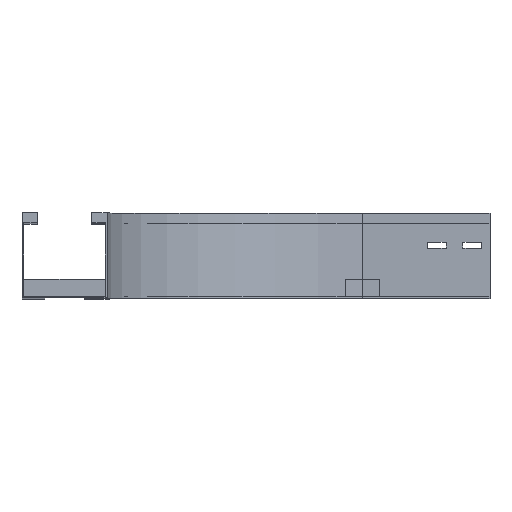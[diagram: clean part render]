
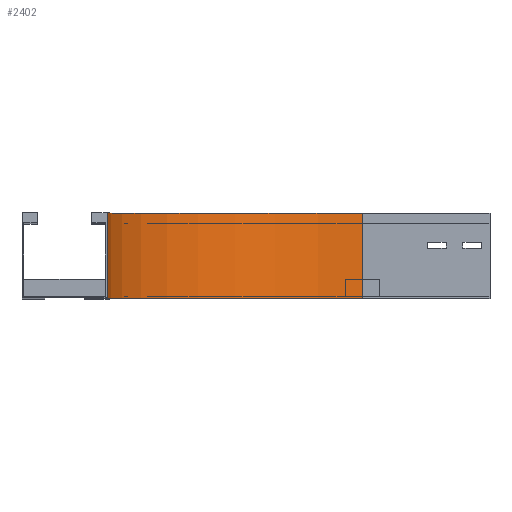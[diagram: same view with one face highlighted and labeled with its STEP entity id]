
A CAD part, top view. The second image highlights one B-rep face of the part: STEP entity #2402.
In plain terms, the highlighted cylindrical face has radius 300 mm (diameter 600 mm), a partial arc.
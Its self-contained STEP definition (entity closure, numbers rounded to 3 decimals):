
#35 = ORIENTED_EDGE ( 'NONE', *, *, #304, .T. ) ;
#188 = CIRCLE ( 'NONE', #573, 300. ) ;
#304 = EDGE_CURVE ( 'NONE', #2857, #2719, #3432, .T. ) ;
#307 = VECTOR ( 'NONE', #2471, 1000. ) ;
#364 = DIRECTION ( 'NONE',  ( 0., 0., -1. ) ) ;
#469 = CARTESIAN_POINT ( 'NONE',  ( 0., 100., -150. ) ) ;
#573 = AXIS2_PLACEMENT_3D ( 'NONE', #1975, #1406, #3188 ) ;
#770 = CARTESIAN_POINT ( 'NONE',  ( 300., 0., -450. ) ) ;
#837 = VERTEX_POINT ( 'NONE', #2971 ) ;
#882 = CIRCLE ( 'NONE', #3744, 300. ) ;
#1001 = LINE ( 'NONE', #1936, #307 ) ;
#1319 = VERTEX_POINT ( 'NONE', #469 ) ;
#1345 = CARTESIAN_POINT ( 'NONE',  ( 300., 0., -450. ) ) ;
#1348 = EDGE_LOOP ( 'NONE', ( #2502, #1606, #1481, #35 ) ) ;
#1406 = DIRECTION ( 'NONE',  ( 0., -1., 0. ) ) ;
#1481 = ORIENTED_EDGE ( 'NONE', *, *, #1991, .T. ) ;
#1606 = ORIENTED_EDGE ( 'NONE', *, *, #3689, .F. ) ;
#1791 = EDGE_CURVE ( 'NONE', #1319, #2719, #188, .T. ) ;
#1834 = CARTESIAN_POINT ( 'NONE',  ( 300., 0., -150. ) ) ;
#1936 = CARTESIAN_POINT ( 'NONE',  ( 0., 0., -150. ) ) ;
#1975 = CARTESIAN_POINT ( 'NONE',  ( 300., 100., -150. ) ) ;
#1991 = EDGE_CURVE ( 'NONE', #837, #2857, #882, .T. ) ;
#2116 = FACE_OUTER_BOUND ( 'NONE', #1348, .T. ) ;
#2402 = ADVANCED_FACE ( 'NONE', ( #2116 ), #3020, .F. ) ;
#2413 = DIRECTION ( 'NONE',  ( -1., 0., 0. ) ) ;
#2417 = CARTESIAN_POINT ( 'NONE',  ( 300., 0., -150. ) ) ;
#2471 = DIRECTION ( 'NONE',  ( 0., 1., 0. ) ) ;
#2502 = ORIENTED_EDGE ( 'NONE', *, *, #1791, .F. ) ;
#2569 = DIRECTION ( 'NONE',  ( 0., 1., 0. ) ) ;
#2719 = VERTEX_POINT ( 'NONE', #3273 ) ;
#2729 = DIRECTION ( 'NONE',  ( 0., -1., 0. ) ) ;
#2825 = AXIS2_PLACEMENT_3D ( 'NONE', #2417, #3002, #364 ) ;
#2857 = VERTEX_POINT ( 'NONE', #1345 ) ;
#2971 = CARTESIAN_POINT ( 'NONE',  ( 0., 0., -150. ) ) ;
#3002 = DIRECTION ( 'NONE',  ( 0., -1., 0. ) ) ;
#3020 = CYLINDRICAL_SURFACE ( 'NONE', #2825, 300. ) ;
#3188 = DIRECTION ( 'NONE',  ( -1., 0., 0. ) ) ;
#3273 = CARTESIAN_POINT ( 'NONE',  ( 300., 100., -450. ) ) ;
#3432 = LINE ( 'NONE', #770, #3824 ) ;
#3689 = EDGE_CURVE ( 'NONE', #837, #1319, #1001, .T. ) ;
#3744 = AXIS2_PLACEMENT_3D ( 'NONE', #1834, #2729, #2413 ) ;
#3824 = VECTOR ( 'NONE', #2569, 1000. ) ;
